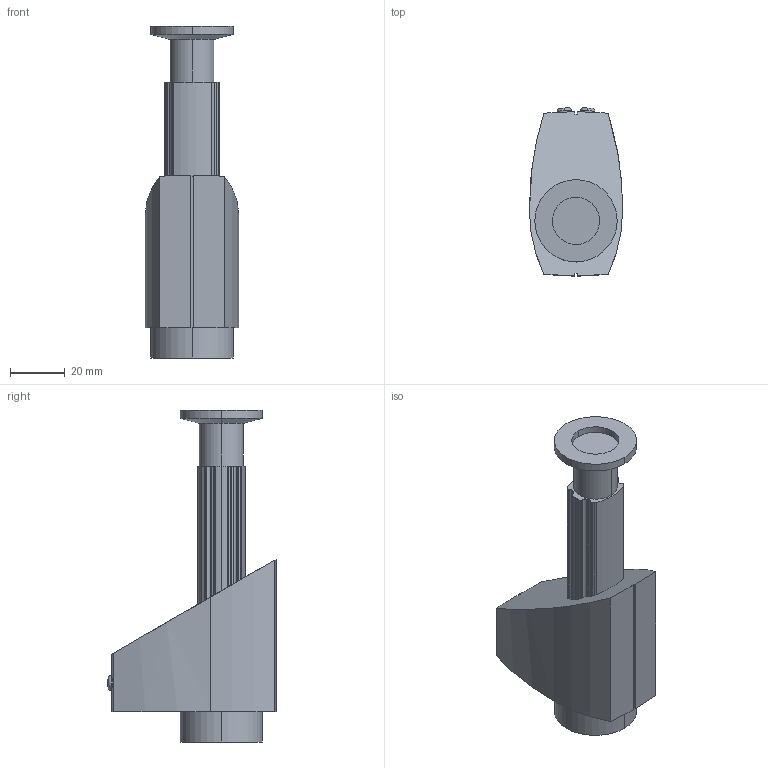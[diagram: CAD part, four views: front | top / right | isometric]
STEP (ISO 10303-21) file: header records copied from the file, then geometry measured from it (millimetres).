
FILE_DESCRIPTION((''),'2;1');
FILE_NAME('U:\Projekte\11741 3D Modelle\Leybold\15852.stp','2004-12-17T08:47:13',('BEM'),(''),'Autodesk Inventor 9','Autodesk Inventor 9','');
FILE_SCHEMA(('AUTOMOTIVE_DESIGN { 1 0 10303 214 1 1 1 1 }'));
Length unit declared in the file: millimetre
Products named in the file (1): 15852
Bounding box: 34 x 61.34 x 121 mm (x, y, z)
Volume: 79970 mm3; surface area: 24580.8 mm2
Topology: 1 solids, 2 shells, 308 faces, 844 edges, 553 vertices
Faces by surface type: cylinder 228, plane 49, cone 27, bspline 4
Entity records: 10276 total; most frequent: CARTESIAN_POINT 1954, DIRECTION 1953, ORIENTED_EDGE 1688, EDGE_CURVE 844, AXIS2_PLACEMENT_3D 804, VERTEX_POINT 553, CIRCLE 453, VECTOR 345
